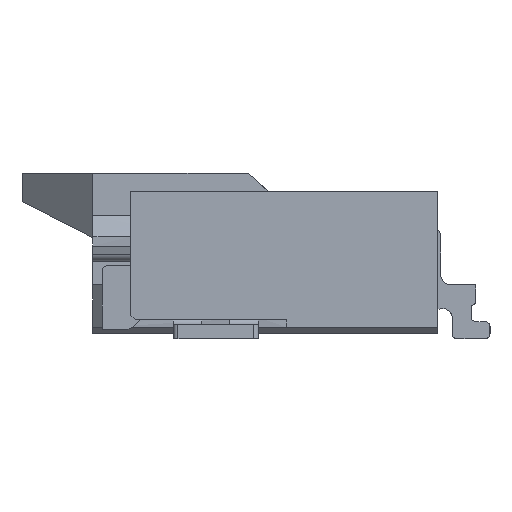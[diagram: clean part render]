
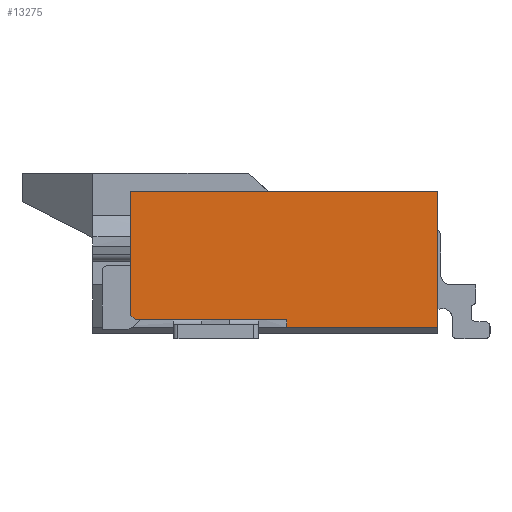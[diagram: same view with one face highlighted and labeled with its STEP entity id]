
A CAD part, left-side view. The second image highlights one B-rep face of the part: STEP entity #13275.
In plain terms, the highlighted free-form (B-spline) face has degree [1, 1] with [2, 2] control points.
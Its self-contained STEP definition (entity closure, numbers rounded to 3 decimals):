
#48 = EDGE_CURVE ( 'NONE', #12802, #10470, #10854, .T. ) ;
#589 = B_SPLINE_CURVE_WITH_KNOTS ( 'NONE', 1,
 ( #11152, #7852 ),
 .UNSPECIFIED., .F., .F.,
 ( 2, 2 ),
 ( 0., 1. ),
 .UNSPECIFIED. ) ;
#987 = CARTESIAN_POINT ( 'NONE',  ( 11.65, -3.65, 0.07 ) ) ;
#1122 = CARTESIAN_POINT ( 'NONE',  ( 11.65, -2.05, 0.15 ) ) ;
#1305 = ORIENTED_EDGE ( 'NONE', *, *, #12468, .T. ) ;
#1531 = CARTESIAN_POINT ( 'NONE',  ( 11.65, -0.45, 0.15 ) ) ;
#1754 = CARTESIAN_POINT ( 'NONE',  ( 11.65, -2.05, 0.15 ) ) ;
#2297 = VERTEX_POINT ( 'NONE', #13658 ) ;
#2459 = ORIENTED_EDGE ( 'NONE', *, *, #2607, .F. ) ;
#2607 = EDGE_CURVE ( 'NONE', #5363, #3808, #589, .T. ) ;
#2687 = ORIENTED_EDGE ( 'NONE', *, *, #5254, .T. ) ;
#3492 = CARTESIAN_POINT ( 'NONE',  ( 11.65, -0.4, 1.51 ) ) ;
#3724 = CARTESIAN_POINT ( 'NONE',  ( 11.65, -0.4, 0.2 ) ) ;
#3743 = B_SPLINE_CURVE_WITH_KNOTS ( 'NONE', 1,
 ( #10273, #4638 ),
 .UNSPECIFIED., .F., .F.,
 ( 2, 2 ),
 ( 0., 1. ),
 .UNSPECIFIED. ) ;
#3808 = VERTEX_POINT ( 'NONE', #4917 ) ;
#4028 = CARTESIAN_POINT ( 'NONE',  ( 11.65, -3.65, 1.51 ) ) ;
#4638 = CARTESIAN_POINT ( 'NONE',  ( 11.65, -2.05, 0.15 ) ) ;
#4671 = CARTESIAN_POINT ( 'NONE',  ( 11.65, -3.65, 0.07 ) ) ;
#4917 = CARTESIAN_POINT ( 'NONE',  ( 11.65, -3.65, 1.51 ) ) ;
#5254 = EDGE_CURVE ( 'NONE', #2297, #6440, #14019, .T. ) ;
#5363 = VERTEX_POINT ( 'NONE', #3492 ) ;
#5807 = ORIENTED_EDGE ( 'NONE', *, *, #6376, .F. ) ;
#5866 = CARTESIAN_POINT ( 'NONE',  ( 11.65, -0.4, 0.2 ) ) ;
#6050 = CARTESIAN_POINT ( 'NONE',  ( 11.65, -0.45, 0.15 ) ) ;
#6055 = CARTESIAN_POINT ( 'NONE',  ( 11.65, -0.417, 0.183 ) ) ;
#6145 = CARTESIAN_POINT ( 'NONE',  ( 11.65, -3.65, 0.07 ) ) ;
#6376 = EDGE_CURVE ( 'NONE', #3808, #12802, #8509, .T. ) ;
#6440 = VERTEX_POINT ( 'NONE', #6050 ) ;
#6504 = ORIENTED_EDGE ( 'NONE', *, *, #9252, .T. ) ;
#6650 = CARTESIAN_POINT ( 'NONE',  ( 11.65, -3.65, 0.07 ) ) ;
#6966 = CARTESIAN_POINT ( 'NONE',  ( 11.65, -0.4, 0.07 ) ) ;
#7648 = EDGE_LOOP ( 'NONE', ( #1305, #6504, #9381, #5807, #2459, #12419, #2687 ) ) ;
#7852 = CARTESIAN_POINT ( 'NONE',  ( 11.65, -3.65, 1.51 ) ) ;
#7897 = B_SPLINE_CURVE_WITH_KNOTS ( 'NONE', 1,
 ( #13642, #5866 ),
 .UNSPECIFIED., .F., .F.,
 ( 2, 2 ),
 ( 0., 1. ),
 .UNSPECIFIED. ) ;
#8043 = FACE_OUTER_BOUND ( 'NONE', #7648, .T. ) ;
#8124 = CARTESIAN_POINT ( 'NONE',  ( 11.65, -0.433, 0.167 ) ) ;
#8509 = B_SPLINE_CURVE_WITH_KNOTS ( 'NONE', 1,
 ( #4028, #6145 ),
 .UNSPECIFIED., .F., .F.,
 ( 2, 2 ),
 ( 0., 1. ),
 .UNSPECIFIED. ) ;
#8586 = VERTEX_POINT ( 'NONE', #1122 ) ;
#8606 = CARTESIAN_POINT ( 'NONE',  ( 11.65, -2.05, 0.07 ) ) ;
#9252 = EDGE_CURVE ( 'NONE', #8586, #10470, #11155, .T. ) ;
#9381 = ORIENTED_EDGE ( 'NONE', *, *, #48, .F. ) ;
#10026 = CARTESIAN_POINT ( 'NONE',  ( 11.65, -0.4, 1.51 ) ) ;
#10273 = CARTESIAN_POINT ( 'NONE',  ( 11.65, -0.45, 0.15 ) ) ;
#10470 = VERTEX_POINT ( 'NONE', #12095 ) ;
#10854 = B_SPLINE_CURVE_WITH_KNOTS ( 'NONE', 1,
 ( #987, #8606 ),
 .UNSPECIFIED., .F., .F.,
 ( 2, 2 ),
 ( 0., 1. ),
 .UNSPECIFIED. ) ;
#11152 = CARTESIAN_POINT ( 'NONE',  ( 11.65, -0.4, 1.51 ) ) ;
#11155 = B_SPLINE_CURVE_WITH_KNOTS ( 'NONE', 1,
 ( #1754, #13967 ),
 .UNSPECIFIED., .F., .F.,
 ( 2, 2 ),
 ( 0., 1. ),
 .UNSPECIFIED. ) ;
#11327 = EDGE_CURVE ( 'NONE', #5363, #2297, #7897, .T. ) ;
#11337 = B_SPLINE_SURFACE_WITH_KNOTS ( 'NONE', 1, 1, ( 
 ( #4671, #6966 ),
 ( #11367, #10026 ) ),
 .UNSPECIFIED., .F., .F., .F.,
 ( 2, 2 ),
 ( 2, 2 ),
 ( 0., 1. ),
 ( 0., 1. ),
 .UNSPECIFIED. ) ;
#11367 = CARTESIAN_POINT ( 'NONE',  ( 11.65, -3.65, 1.51 ) ) ;
#12095 = CARTESIAN_POINT ( 'NONE',  ( 11.65, -2.05, 0.07 ) ) ;
#12419 = ORIENTED_EDGE ( 'NONE', *, *, #11327, .T. ) ;
#12468 = EDGE_CURVE ( 'NONE', #6440, #8586, #3743, .T. ) ;
#12802 = VERTEX_POINT ( 'NONE', #6650 ) ;
#13275 = ADVANCED_FACE ( 'NONE', ( #8043 ), #11337, .T. ) ;
#13642 = CARTESIAN_POINT ( 'NONE',  ( 11.65, -0.4, 1.51 ) ) ;
#13658 = CARTESIAN_POINT ( 'NONE',  ( 11.65, -0.4, 0.2 ) ) ;
#13967 = CARTESIAN_POINT ( 'NONE',  ( 11.65, -2.05, 0.07 ) ) ;
#14019 = B_SPLINE_CURVE_WITH_KNOTS ( 'NONE', 3,
 ( #3724, #6055, #8124, #1531 ),
 .UNSPECIFIED., .F., .F.,
 ( 4, 4 ),
 ( 0., 1. ),
 .UNSPECIFIED. ) ;
